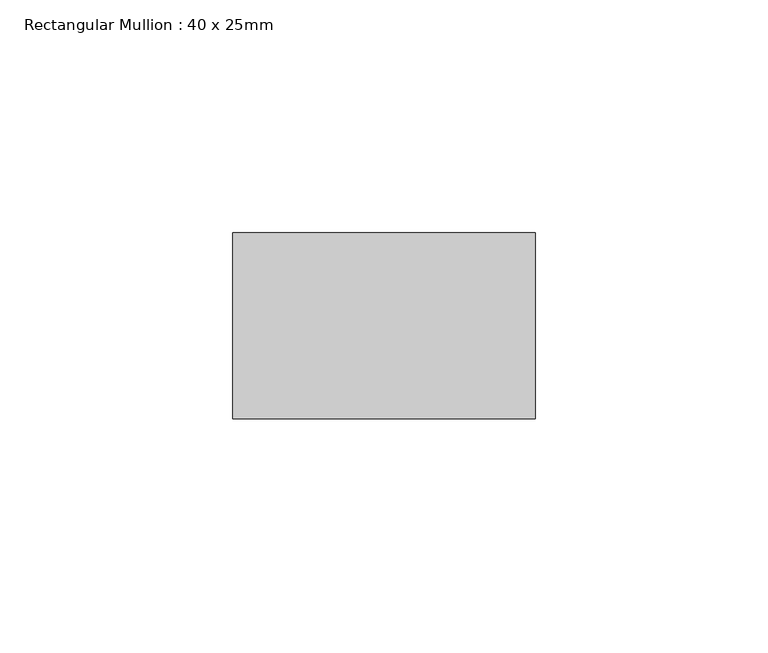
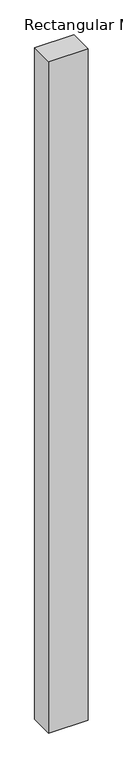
"""IFC4 building model written with IfcOpenShell, lengths in millimetres: member geometry, Rectangular Mullion : 40 x 25mm."""

import ifcopenshell
import ifcopenshell.guid

model = None  # the IFC model being written
_history = None  # IfcOwnerHistory: only IFC2X3 demands one
_inside = {}  # id of a spatial element -> (the spatial element, [elements in it])
_under = {}  # id of a project, library or spatial element -> (it, [spatial elements below it])
_declared = {}  # id of a project -> (the project, [libraries it declares])
_typed = {}  # id of a type object -> (the type object, [elements of that type])
_made_of = {}  # id of a material, layer set ... -> (it, [elements and type objects made of it])


def new_model(schema):
    """Start an empty IFC model of exactly this schema.

    Asked for "IFC4X3", IfcOpenShell would pick the latest addendum, in which some entities
    have other attributes; the version numbers below select the first issue.
    IFC2X3 requires an IfcOwnerHistory on every rooted entity: one is made here for all.
    """
    global model, _history
    if schema == "IFC4X3":
        model = ifcopenshell.file(schema_version=(4, 3, 0, 0))
    else:
        model = ifcopenshell.file(schema=schema)
    _inside.clear()
    _under.clear()
    _declared.clear()
    _typed.clear()
    _made_of.clear()
    _history = None
    if model.schema == "IFC2X3":
        org = make("IfcOrganization", Name="unknown")
        user = make(
            "IfcPersonAndOrganization",
            ThePerson=make("IfcPerson", FamilyName="unknown"),
            TheOrganization=org,
        )
        app = make(
            "IfcApplication",
            ApplicationDeveloper=org,
            Version="unknown",
            ApplicationFullName="unknown",
            ApplicationIdentifier="unknown",
        )
        _history = make(
            "IfcOwnerHistory",
            OwningUser=user,
            OwningApplication=app,
            ChangeAction="ADDED",
            CreationDate=0,
        )
    return model


def make(cls, **values):
    """One entity of the class cls with the attributes given. An attribute that is None is left unset."""
    return model.create_entity(
        cls, **{name: value for name, value in values.items() if value is not None}
    )


def rooted(cls, **values):
    """An entity with a GlobalId (a new one), such as an element, a storey or a relation."""
    return make(cls, GlobalId=ifcopenshell.guid.new(), OwnerHistory=_history, **values)


def si_unit(unit_type, name, prefix=None):
    """IfcSIUnit, for example si_unit("LENGTHUNIT", "METRE", prefix="MILLI")."""
    return make("IfcSIUnit", UnitType=unit_type, Prefix=prefix, Name=name)


def assignment(units):
    """IfcUnitAssignment: the units of a project."""
    return None if units is None else make("IfcUnitAssignment", Units=units)


def point(xyz):
    """IfcCartesianPoint."""
    return None if xyz is None else make("IfcCartesianPoint", Coordinates=xyz)


def direction(xyz):
    """IfcDirection."""
    return None if xyz is None else make("IfcDirection", DirectionRatios=xyz)


def frame(location, z_axis=None, x_axis=None):
    """IfcAxis2Placement3D, a coordinate frame: its origin and axes. An axis left out is left unset."""
    return make(
        "IfcAxis2Placement3D",
        Location=point(location),
        Axis=direction(z_axis),
        RefDirection=direction(x_axis),
    )


def origin():
    """The frame at (0, 0, 0) with its axes left unset."""
    return frame((0.0, 0.0, 0.0))


def place(relative_to, where):
    """IfcLocalPlacement: puts the frame where relative to a parent placement (None: the world)."""
    return make(
        "IfcLocalPlacement", PlacementRelTo=relative_to, RelativePlacement=where
    )


def context(
    kind, dimensions, precision=None, world=None, true_north=None, identifier=None
):
    """IfcGeometricRepresentationContext, for example the 3D "Model" context."""
    return make(
        "IfcGeometricRepresentationContext",
        ContextIdentifier=identifier,
        ContextType=kind,
        CoordinateSpaceDimension=dimensions,
        Precision=precision,
        WorldCoordinateSystem=world,
        TrueNorth=true_north,
    )


def project(units=None, contexts=None):
    """IfcProject with its units and contexts."""
    return rooted(
        "IfcProject",
        Name="project",
        RepresentationContexts=contexts,
        UnitsInContext=assignment(units),
    )


def spatial(cls, under=None, at=None, **own):
    """A site, building, storey or space (cls), placed at a placement, below another one or the project."""
    s = rooted(cls, ObjectPlacement=at, **own)
    if under is not None:
        _under.setdefault(under.id(), (under, []))[1].append(s)
    return s


def polyline(points):
    """IfcPolyline through the points."""
    return make("IfcPolyline", Points=[point(p) for p in points])


def outline(outer, holes=None, kind="AREA"):
    """IfcArbitraryClosedProfileDef: a profile drawn as a closed curve; with holes, ...WithVoids."""
    if holes is None:
        return make("IfcArbitraryClosedProfileDef", ProfileType=kind, OuterCurve=outer)
    return make(
        "IfcArbitraryProfileDefWithVoids",
        ProfileType=kind,
        OuterCurve=outer,
        InnerCurves=holes,
    )


def extrude(swept, where, along, depth):
    """IfcExtrudedAreaSolid: the profile swept, set in the frame where, extruded along a direction by depth."""
    return make(
        "IfcExtrudedAreaSolid",
        SweptArea=swept,
        Position=where,
        ExtrudedDirection=direction(along),
        Depth=depth,
    )


def shape(context_of_items, identifier, shape_type, items):
    """IfcShapeRepresentation: the items that make up one representation, for example the "Body"."""
    return make(
        "IfcShapeRepresentation",
        ContextOfItems=context_of_items,
        RepresentationIdentifier=identifier,
        RepresentationType=shape_type,
        Items=items,
    )


def source(mapping_origin, context_of_items, identifier, shape_type, items):
    """IfcRepresentationMap: a shape defined once, which mapped items show again and again."""
    return make(
        "IfcRepresentationMap",
        MappingOrigin=mapping_origin,
        MappedRepresentation=shape(context_of_items, identifier, shape_type, items),
    )


def transform(
    local_origin,
    x_axis=None,
    y_axis=None,
    z_axis=None,
    scale=None,
    scale2=None,
    scale3=None,
    uniform=True,
):
    """IfcCartesianTransformationOperator3D, or its non-uniform kind. x_axis, y_axis, z_axis: its Axis1, 2, 3."""
    if uniform:
        return make(
            "IfcCartesianTransformationOperator3D",
            Axis1=direction(x_axis),
            Axis2=direction(y_axis),
            LocalOrigin=point(local_origin),
            Scale=scale,
            Axis3=direction(z_axis),
        )
    return make(
        "IfcCartesianTransformationOperator3DnonUniform",
        Axis1=direction(x_axis),
        Axis2=direction(y_axis),
        LocalOrigin=point(local_origin),
        Scale=scale,
        Axis3=direction(z_axis),
        Scale2=scale2,
        Scale3=scale3,
    )


def mapped(mapping_source, mapping_target):
    """IfcMappedItem: shows the shape of a source again, moved by a transform."""
    return make(
        "IfcMappedItem", MappingSource=mapping_source, MappingTarget=mapping_target
    )


def made_of(thing, what):
    """Note that an element or type object is made of a material, layer set ...; save() writes the relation."""
    if what is not None:
        _made_of.setdefault(what.id(), (what, []))[1].append(thing)
    return thing


def element(
    cls,
    number,
    at=None,
    inside=None,
    cuts=None,
    type_object=None,
    material=None,
    context=None,
    identifier="Body",
    shape_type=None,
    held_by="IfcProductDefinitionShape",
    body=None,
    shapes=None,
    **own,
):
    """One element of the class cls, such as IfcWall. Its Tag is "e" and its number.

    at: its placement. inside: the storey or other place that contains it. cuts: it is an
    opening in that element (IfcRelVoidsElement). A single representation is given by context,
    identifier, shape_type and body (its items); several are given by shapes. held_by: the class
    of the entity that holds the representations. save() writes the other relations.
    """
    e = rooted(cls, Tag="e%d" % number, ObjectPlacement=at, **own)
    if body is not None:
        shapes = [shape(context, identifier, shape_type, body)]
    if shapes is not None:
        e.Representation = make(held_by, Representations=shapes)
    if inside is not None:
        _inside.setdefault(inside.id(), (inside, []))[1].append(e)
    if cuts is not None:
        rooted(
            "IfcRelVoidsElement", RelatingBuildingElement=cuts, RelatedOpeningElement=e
        )
    if type_object is not None:
        _typed.setdefault(type_object.id(), (type_object, []))[1].append(e)
    return made_of(e, material)


def aggregate(whole, parts):
    """IfcRelAggregates: a whole, such as a stair, and the parts it consists of."""
    return rooted("IfcRelAggregates", RelatingObject=whole, RelatedObjects=parts)


def save(model, path):
    """Write the relations noted so far, then the file.

    IfcRelAggregates (storeys below a building ...), IfcRelContainedInSpatialStructure (elements
    in a storey), IfcRelDefinesByType, IfcRelAssociatesMaterial and IfcRelDeclares: one each for
    every whole, place, type object, material and project.
    """
    for whole, parts in _under.values():
        aggregate(whole, parts)
    for where, things in _inside.values():
        rooted(
            "IfcRelContainedInSpatialStructure",
            RelatedElements=things,
            RelatingStructure=where,
        )
    for kind, things in _typed.values():
        rooted("IfcRelDefinesByType", RelatedObjects=things, RelatingType=kind)
    for what, things in _made_of.values():
        rooted("IfcRelAssociatesMaterial", RelatedObjects=things, RelatingMaterial=what)
    for by, libraries in _declared.values():
        rooted("IfcRelDeclares", RelatingContext=by, RelatedDefinitions=libraries)
    model.write(path)


def rectangular_mullion_40_x_25mm_7af0277d(model_context):
    return source(origin(), model_context, "Body", "SweptSolid", [
        extrude(outline(polyline([(40.0, -20.0), (40.0, -60.0), (-25.0, -60.0), (-25.0, -20.0), (40.0, -20.0)])), frame((0.0, 0.0, -1175.0), z_axis=(0.0, 0.0, 1.0), x_axis=(1.0, 0.0, 0.0)), (0.0, 0.0, 1.0), 1175.0),
    ])


if __name__ == "__main__":
    model = new_model("IFC4")
    model_context = context("Model", 3, world=origin())
    ifc_project = project(units=[si_unit("LENGTHUNIT", "METRE", prefix="MILLI")], contexts=[model_context])
    site = spatial("IfcSite", under=ifc_project)
    building = spatial("IfcBuilding", under=site)
    placement = place(None, origin())
    rectangular_mullion_40_x_25mm_shape = rectangular_mullion_40_x_25mm_7af0277d(model_context)
    element("IfcMember", 1, ObjectType="Rectangular Mullion : 40 x 25mm", at=placement, inside=building, context=model_context, shape_type="MappedRepresentation", body=[
        mapped(rectangular_mullion_40_x_25mm_shape, transform((0.0, 0.0, 0.0), x_axis=(1.0, 0.0, 0.0), y_axis=(0.0, 1.0, 0.0), z_axis=(0.0, 0.0, 1.0))),
    ])
    save(model, "model.ifc")
